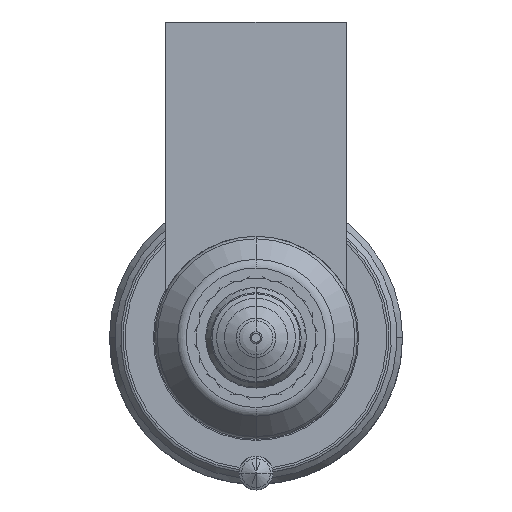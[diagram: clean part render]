
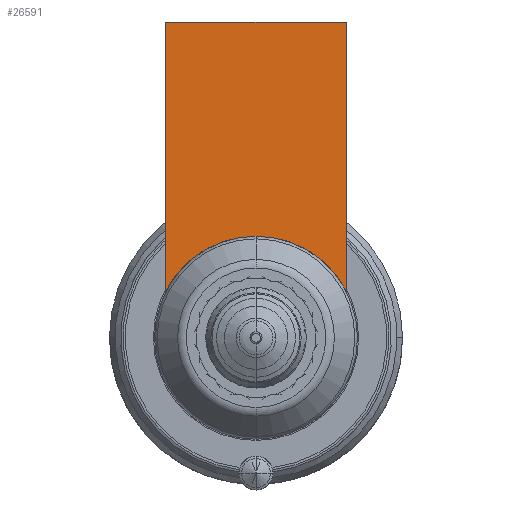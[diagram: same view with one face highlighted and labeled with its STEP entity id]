
A CAD part, front view. The second image highlights one B-rep face of the part: STEP entity #26591.
In plain terms, the highlighted planar face has unit normal (0, -1, 0).
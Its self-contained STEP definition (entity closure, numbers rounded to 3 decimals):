
#25714=DIRECTION('',(1.,0.,0.));
#25715=VECTOR('',#25714,16.);
#25716=CARTESIAN_POINT('',(-8.,-54.,28.));
#25717=LINE('',#25716,#25715);
#25722=CARTESIAN_POINT('',(0.,-54.,0.));
#25723=DIRECTION('',(0.,-1.,0.));
#25724=DIRECTION('',(0.889,0.,0.458));
#25725=AXIS2_PLACEMENT_3D('',#25722,#25723,#25724);
#25730=CARTESIAN_POINT('',(0.,-54.,0.));
#25731=DIRECTION('',(0.,-1.,0.));
#25732=DIRECTION('',(0.,0.,1.));
#25733=AXIS2_PLACEMENT_3D('',#25730,#25731,#25732);
#25759=DIRECTION('',(0.,0.,-1.));
#25760=VECTOR('',#25759,23.877);
#25761=CARTESIAN_POINT('',(-8.,-54.,28.));
#25762=LINE('',#25761,#25760);
#26435=DIRECTION('',(0.,0.,-1.));
#26436=VECTOR('',#26435,23.877);
#26437=CARTESIAN_POINT('',(8.,-54.,28.));
#26438=LINE('',#26437,#26436);
#26488=CARTESIAN_POINT('',(-8.,-54.,28.));
#26489=VERTEX_POINT('',#26488);
#26494=CARTESIAN_POINT('',(8.,-54.,28.));
#26495=VERTEX_POINT('',#26494);
#26498=CARTESIAN_POINT('',(-8.,-54.,4.123));
#26499=VERTEX_POINT('',#26498);
#26502=CARTESIAN_POINT('',(8.,-54.,4.123));
#26503=VERTEX_POINT('',#26502);
#26572=CARTESIAN_POINT('',(0.,-54.,9.));
#26573=VERTEX_POINT('',#26572);
#26574=CARTESIAN_POINT('',(0.,-54.,9.));
#26575=DIRECTION('',(0.,1.,0.));
#26576=DIRECTION('',(0.,0.,-1.));
#26577=AXIS2_PLACEMENT_3D('',#26574,#26575,#26576);
#26578=PLANE('',#26577);
#26580=ORIENTED_EDGE('',*,*,#26579,.F.);
#26582=ORIENTED_EDGE('',*,*,#26581,.T.);
#26584=ORIENTED_EDGE('',*,*,#26583,.T.);
#26586=ORIENTED_EDGE('',*,*,#26585,.T.);
#26588=ORIENTED_EDGE('',*,*,#26587,.T.);
#26589=EDGE_LOOP('',(#26580,#26582,#26584,#26586,#26588));
#26590=FACE_OUTER_BOUND('',#26589,.F.);
#26591=ADVANCED_FACE('',(#26590),#26578,.F.);
#25726=CIRCLE('',#25725,9.);
#25734=CIRCLE('',#25733,9.);
#26579=EDGE_CURVE('',#26489,#26499,#25762,.T.);
#26581=EDGE_CURVE('',#26489,#26495,#25717,.T.);
#26583=EDGE_CURVE('',#26495,#26503,#26438,.T.);
#26585=EDGE_CURVE('',#26503,#26573,#25726,.T.);
#26587=EDGE_CURVE('',#26573,#26499,#25734,.T.);
